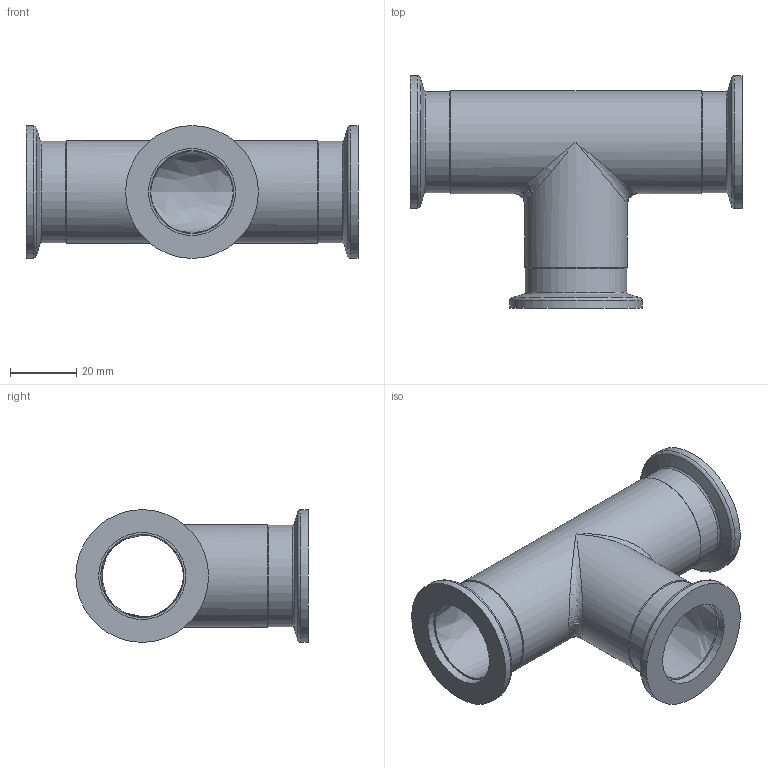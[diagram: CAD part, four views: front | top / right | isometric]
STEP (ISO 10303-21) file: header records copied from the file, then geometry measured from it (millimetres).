
FILE_DESCRIPTION((''),'2;1');
FILE_NAME('W:\M211-263.stp','2006-08-30T11:20:09',('KAA'),(''),'Autodesk Inventor 10','Autodesk Inventor 10','');
FILE_SCHEMA(('CONFIG_CONTROL_DESIGN'));
Length unit declared in the file: millimetre
Products named in the file (1): M211-263
Bounding box: 100 x 70 x 40 mm (x, y, z)
Volume: 39374.2 mm3; surface area: 26880.7 mm2
Topology: 1 solids, 1 shells, 33 faces, 74 edges, 41 vertices
Faces by surface type: bspline 15, cylinder 8, cone 4, plane 4, torus 2
Full cylindrical faces by diameter (mm): 26.2 x2, 30.5 x2, 31 x2, 40 x2
Entity records: 1512 total; most frequent: CARTESIAN_POINT 883, DIRECTION 110, ORIENTED_EDGE 72, EDGE_LOOP 66, AXIS2_PLACEMENT_3D 55, EDGE_CURVE 36, VERTEX_POINT 34, FACE_OUTER_BOUND 33
